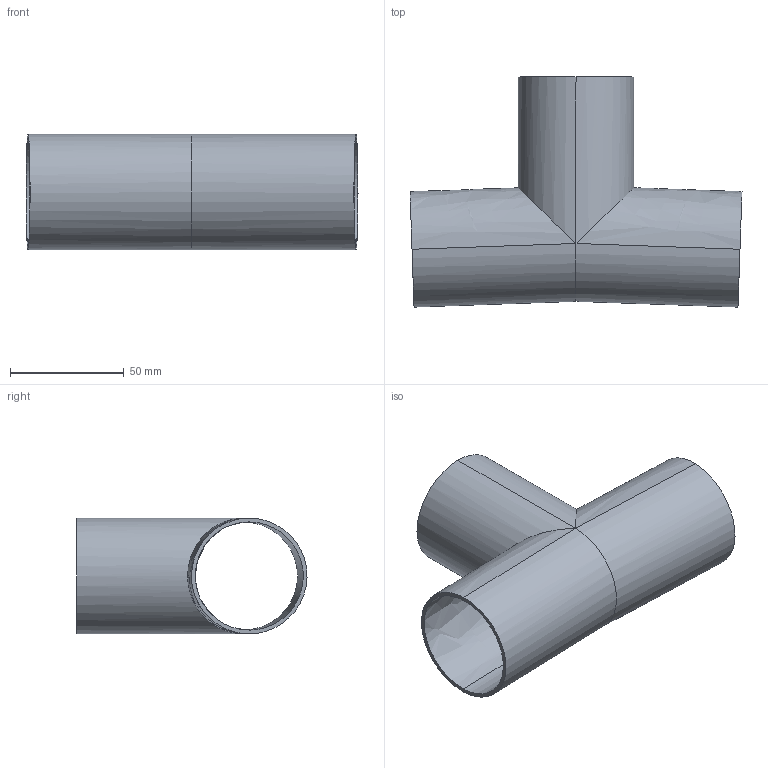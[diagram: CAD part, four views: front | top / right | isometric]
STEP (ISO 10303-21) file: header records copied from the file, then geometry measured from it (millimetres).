
FILE_DESCRIPTION (( 'STEP AP214' ), '1' );
FILE_NAME ('TE7WWW1766L2.0-...STEP', '2016-05-23T05:26:29', ( 'eran' ), ( '' ), 'SwSTEP 2.0', 'SolidWorks 2016', '' );
FILE_SCHEMA (( 'AUTOMOTIVE_DESIGN' ));
Length unit declared in the file: millimetre
Products named in the file (1): TE7WWW1766L2.0-..
Bounding box: 145.79 x 101.03 x 50.8 mm (x, y, z)
Volume: 47485.6 mm3; surface area: 58327.2 mm2
Topology: 1 solids, 1 shells, 15 faces, 30 edges, 16 vertices
Faces by surface type: bspline 8, cylinder 4, plane 3
Entity records: 1721 total; most frequent: CARTESIAN_POINT 1423, ORIENTED_EDGE 60, DIRECTION 40, EDGE_CURVE 30, EDGE_LOOP 18, VERTEX_POINT 16, FACE_OUTER_BOUND 15, ADVANCED_FACE 15
